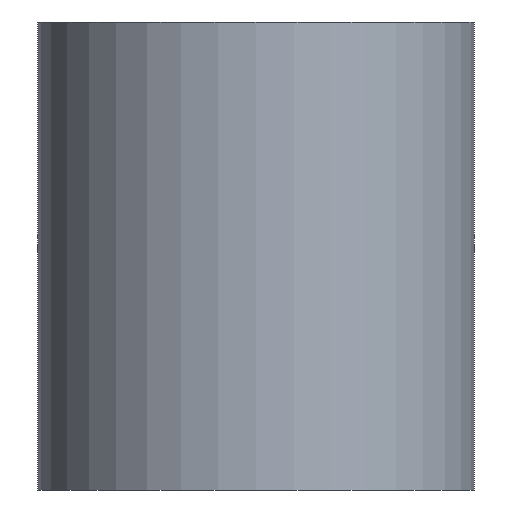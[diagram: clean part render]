
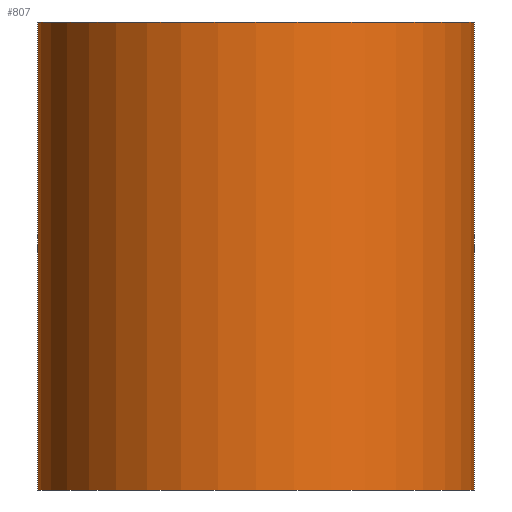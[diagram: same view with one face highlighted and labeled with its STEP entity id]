
A CAD part, front view. The second image highlights one B-rep face of the part: STEP entity #807.
In plain terms, the highlighted cylindrical face has radius 28 mm (diameter 56 mm), a partial arc.
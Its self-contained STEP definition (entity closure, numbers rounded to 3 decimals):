
#26 = EDGE_LOOP ( 'NONE', ( #82, #81, #80, #79 ) ) ;
#79 = ORIENTED_EDGE ( 'NONE', *, *, #744, .T. ) ;
#80 = ORIENTED_EDGE ( 'NONE', *, *, #735, .T. ) ;
#81 = ORIENTED_EDGE ( 'NONE', *, *, #740, .T. ) ;
#82 = ORIENTED_EDGE ( 'NONE', *, *, #736, .F. ) ;
#325 = LINE ( 'NONE', #683, #329 ) ;
#326 = LINE ( 'NONE', #676, #328 ) ;
#328 = VECTOR ( 'NONE', #685, 1000. ) ;
#329 = VECTOR ( 'NONE', #687, 1000. ) ;
#334 = CIRCLE ( 'NONE', #891, 28. ) ;
#339 = CIRCLE ( 'NONE', #895, 28. ) ;
#368 = VERTEX_POINT ( 'NONE', #419 ) ;
#371 = VERTEX_POINT ( 'NONE', #422 ) ;
#373 = VERTEX_POINT ( 'NONE', #424 ) ;
#374 = VERTEX_POINT ( 'NONE', #425 ) ;
#419 = CARTESIAN_POINT ( 'NONE',  ( 28., 0., 0. ) ) ;
#422 = CARTESIAN_POINT ( 'NONE',  ( -28., 0., 60. ) ) ;
#424 = CARTESIAN_POINT ( 'NONE',  ( -28., 0., 0. ) ) ;
#425 = CARTESIAN_POINT ( 'NONE',  ( 28., 0., 60. ) ) ;
#676 = CARTESIAN_POINT ( 'NONE',  ( 28., 0., 0. ) ) ;
#683 = CARTESIAN_POINT ( 'NONE',  ( -28., 0., 0. ) ) ;
#685 = DIRECTION ( 'NONE',  ( 0., 0., 1. ) ) ;
#687 = DIRECTION ( 'NONE',  ( 0., 0., 1. ) ) ;
#691 = CARTESIAN_POINT ( 'NONE',  ( 0., 0., 0. ) ) ;
#735 = EDGE_CURVE ( 'NONE', #368, #374, #326, .T. ) ;
#736 = EDGE_CURVE ( 'NONE', #373, #371, #325, .T. ) ;
#740 = EDGE_CURVE ( 'NONE', #373, #368, #334, .T. ) ;
#744 = EDGE_CURVE ( 'NONE', #374, #371, #339, .T. ) ;
#807 = ADVANCED_FACE ( 'NONE', ( #1226 ), #1222, .T. ) ;
#891 = AXIS2_PLACEMENT_3D ( 'NONE', #691, #922, #923 ) ;
#895 = AXIS2_PLACEMENT_3D ( 'NONE', #926, #934, #935 ) ;
#922 = DIRECTION ( 'NONE',  ( 0., 0., 1. ) ) ;
#923 = DIRECTION ( 'NONE',  ( 1., 0., 0. ) ) ;
#926 = CARTESIAN_POINT ( 'NONE',  ( 0., 0., 60. ) ) ;
#934 = DIRECTION ( 'NONE',  ( 0., 0., -1. ) ) ;
#935 = DIRECTION ( 'NONE',  ( 1., 0., 0. ) ) ;
#1056 = DIRECTION ( 'NONE',  ( 1., 0., 0. ) ) ;
#1063 = DIRECTION ( 'NONE',  ( 0., 0., 1. ) ) ;
#1074 = CARTESIAN_POINT ( 'NONE',  ( 0., 0., 0. ) ) ;
#1222 = CYLINDRICAL_SURFACE ( 'NONE', #1295, 28. ) ;
#1226 = FACE_OUTER_BOUND ( 'NONE', #26, .T. ) ;
#1295 = AXIS2_PLACEMENT_3D ( 'NONE', #1074, #1063, #1056 ) ;
